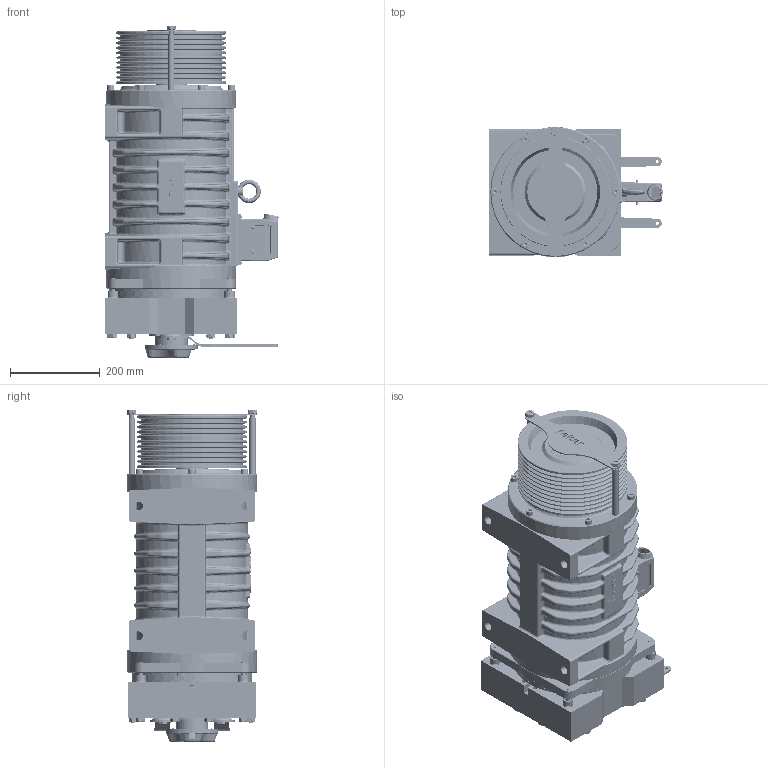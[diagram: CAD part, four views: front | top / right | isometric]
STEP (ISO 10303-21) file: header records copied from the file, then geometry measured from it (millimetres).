
FILE_DESCRIPTION (( 'STEP AP214' ), '1' );
FILE_NAME ('QS424125160.STEP', '2026-01-02T05:47:42', ( '' ), ( '' ), 'SwSTEP 2.0', 'SolidWorks 2023', '' );
FILE_SCHEMA (( 'AUTOMOTIVE_DESIGN' ));
Length unit declared in the file: millimetre
Products named in the file (1): QS424125160
Bounding box: 387.61 x 290.3 x 741.7 mm (x, y, z)
Volume: 22176744.3 mm3; surface area: 3425061 mm2
Topology: 107 solids, 107 shells, 4363 faces, 10308 edges, 6310 vertices
Faces by surface type: cylinder 1530, plane 1318, bspline 617, cone 503, torus 257, sphere 138
Entity records: 174779 total; most frequent: CARTESIAN_POINT 77364, ORIENTED_EDGE 20318, DIRECTION 19995, EDGE_CURVE 10159, AXIS2_PLACEMENT_3D 8000, VERTEX_POINT 6274, EDGE_LOOP 4893, FACE_OUTER_BOUND 4363
